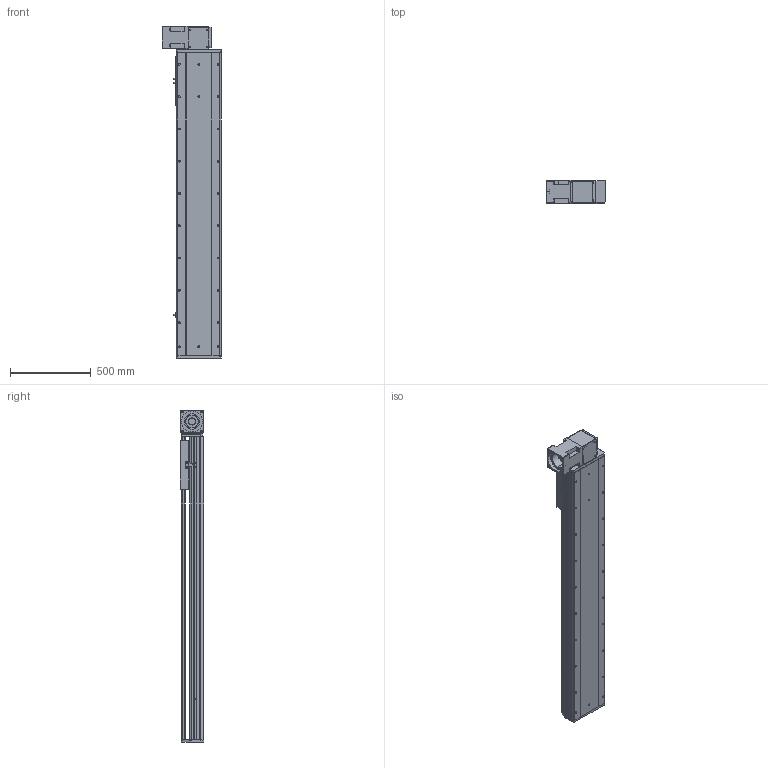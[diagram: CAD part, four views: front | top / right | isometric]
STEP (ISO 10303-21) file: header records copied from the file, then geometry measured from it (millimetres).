
FILE_DESCRIPTION (( 'STEP AP214' ), '1' );
FILE_NAME ('RTB28R-XX-1450-BR-M100-XX-C4.STEP', '2025-12-22T01:13:05', ( '' ), ( '' ), 'SwSTEP 2.0', 'SolidWorks 2018', '' );
FILE_SCHEMA (( 'AUTOMOTIVE_DESIGN' ));
Length unit declared in the file: millimetre
Products named in the file (4): RTB28S-GY-004^RTB28R-XX-XX-BR-M100-XX-C4; RTB28S-GY-011^RTB28R-XX-XX-BR-M100-XX-C4; RTB28R-XX-1450-BR-M100-XX-C4; RTB28S-GY-008^RTB28R-XX-XX-BR-M100-XX-C4
Assembly tree (3 placements, depth 2):
  RTB28R-XX-1450-BR-M100-XX-C4
    RTB28S-GY-011^RTB28R-XX-XX-BR-M100-XX-C4
    RTB28S-GY-004^RTB28R-XX-XX-BR-M100-XX-C4
    RTB28S-GY-008^RTB28R-XX-XX-BR-M100-XX-C4
Bounding box: 370 x 145 x 2057 mm (x, y, z)
Volume: 36702347 mm3; surface area: 3500568.4 mm2
Topology: 3 solids, 4 shells, 1008 faces, 2670 edges, 1716 vertices
Faces by surface type: plane 460, cylinder 377, bspline 87, cone 80, torus 4
Entity records: 43174 total; most frequent: CARTESIAN_POINT 11545, ORIENTED_EDGE 5276, DIRECTION 5130, EDGE_CURVE 2638, AXIS2_PLACEMENT_3D 1769, VERTEX_POINT 1716, VECTOR 1592, LINE 1592
